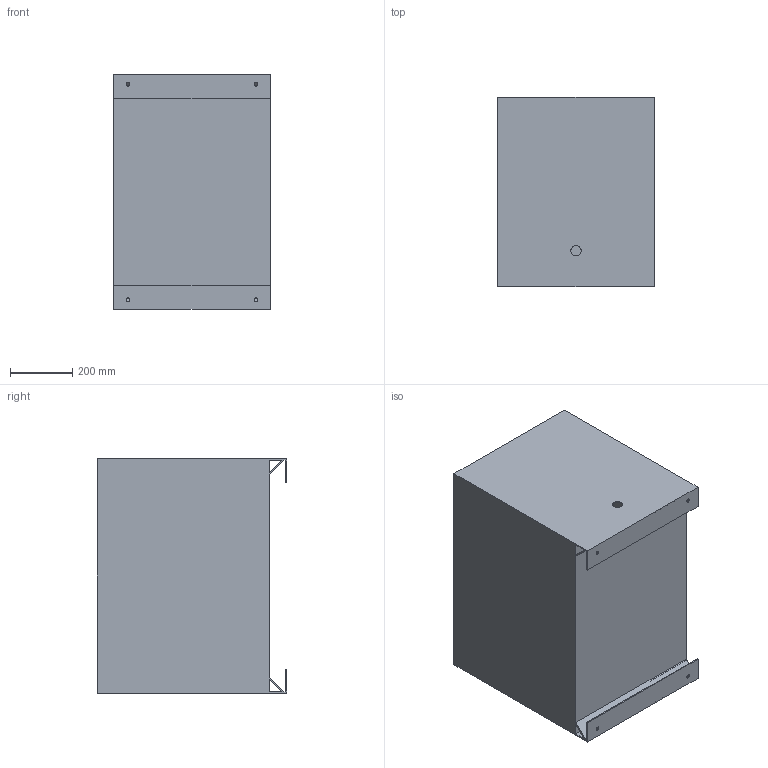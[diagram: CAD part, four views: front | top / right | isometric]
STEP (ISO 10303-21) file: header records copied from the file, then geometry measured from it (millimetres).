
FILE_DESCRIPTION((''),'2;1');
FILE_NAME('STP150','2017-01-14T',('passonicorrado'),('FAI FILTRI s:r.l.'),'PRO/ENGINEER BY PARAMETRIC TECHNOLOGY CORPORATION, 2010180','PRO/ENGINEER BY PARAMETRIC TECHNOLOGY CORPORATION, 2010180','');
FILE_SCHEMA(('CONFIG_CONTROL_DESIGN'));
Length unit declared in the file: millimetre
Products named in the file (1): STP150
Bounding box: 500 x 606 x 750 mm (x, y, z)
Volume: 9868735.3 mm3; surface area: 4557132.1 mm2
Topology: 1 solids, 1 shells, 38 faces, 102 edges, 68 vertices
Faces by surface type: plane 28, cylinder 10
Entity records: 1248 total; most frequent: CARTESIAN_POINT 208, ORIENTED_EDGE 204, DIRECTION 198, EDGE_CURVE 102, VECTOR 82, LINE 82, VERTEX_POINT 68, AXIS2_PLACEMENT_3D 58
